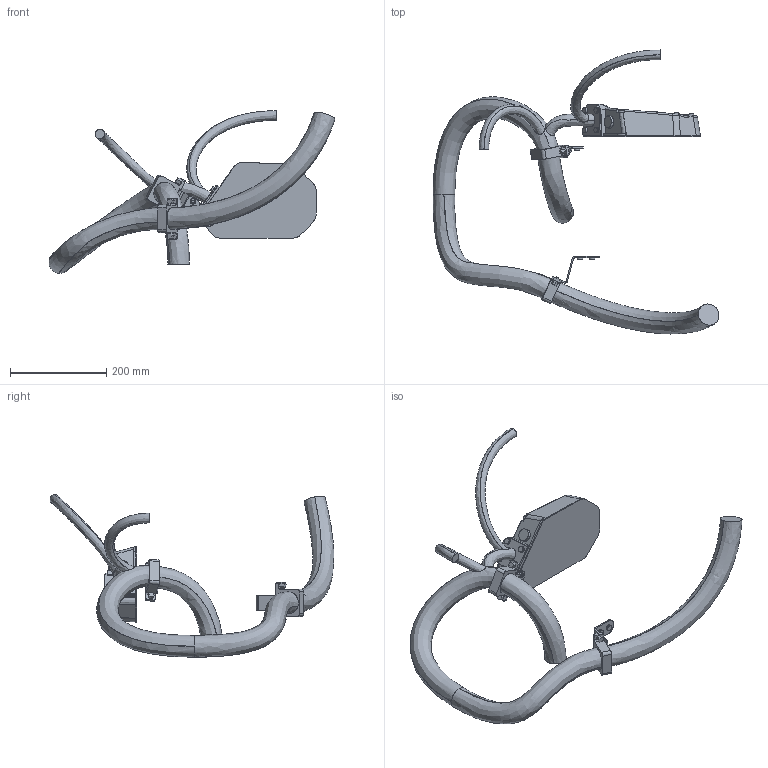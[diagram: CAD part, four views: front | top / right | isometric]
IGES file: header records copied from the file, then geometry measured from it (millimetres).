
Start section: SolidWorks IGES file using analytic representation for surfaces
Global section: file name: C:\Users\SEALDUN\OneDrive - ABB\Documents\R&D Robotics\Work Items\WI 632927\IGES\IRB5710-LID-SW_70kg-270_OC_02_IGES_J\IRB5710-LID_70kg-270_OmniCore_rev00_LINK01m_CABLE.igs; native system: SolidWorks 2024; preprocessor: SolidWorks 2024; author: SEALDUN; date: 250707.155234; units: millimetre
Bounding box: 593.69 x 589.36 x 337.43 mm (x, y, z)
Surface area: 374605.2 mm2 (no closed solid volume)
Topology: 0 solids, 0 shells, 410 faces, 6000 edges, 6000 vertices
Faces by surface type: bspline 274, revolution 136
